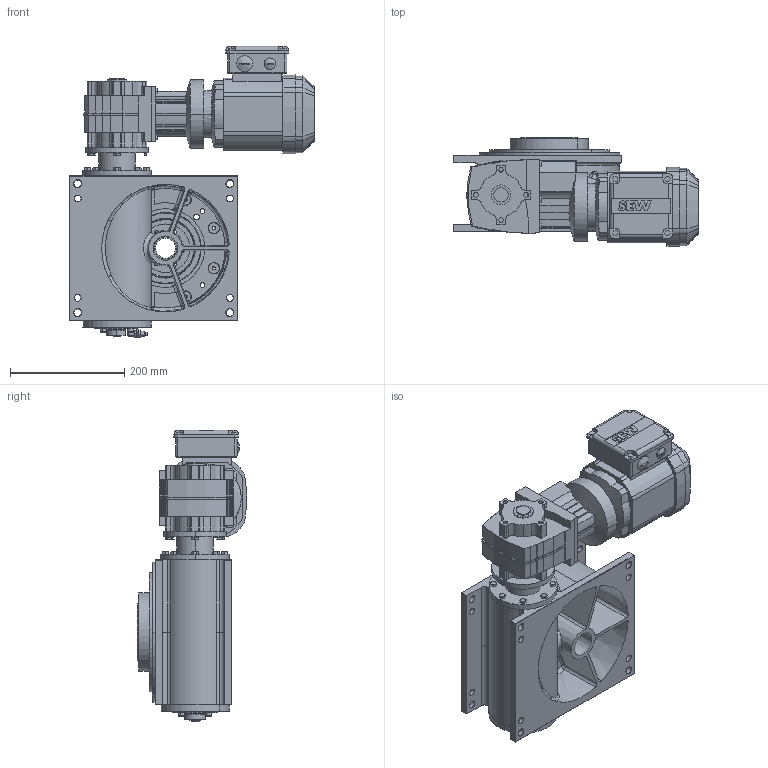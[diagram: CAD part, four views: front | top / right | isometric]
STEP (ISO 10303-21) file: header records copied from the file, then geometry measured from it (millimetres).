
FILE_DESCRIPTION (( 'STEP AP214' ), '1' );
FILE_NAME ('M210_SEW_WA37DRS71S4_D1_08.STEP', '2020-06-17T04:14:39', ( '' ), ( '' ), 'SwSTEP 2.0', 'SolidWorks 2020', '' );
FILE_SCHEMA (( 'AUTOMOTIVE_DESIGN' ));
Length unit declared in the file: millimetre
Products named in the file (1): M210_SEW_WA37DRS71S4_D1_08
Bounding box: 429 x 191.14 x 511 mm (x, y, z)
Surface area: 819921 mm2 (no closed solid volume)
Topology: 0 solids, 89 shells, 1396 faces, 4234 edges, 2848 vertices
Faces by surface type: plane 636, cylinder 402, cone 193, bspline 113, torus 52
Entity records: 70890 total; most frequent: CARTESIAN_POINT 18253, DIRECTION 7771, ORIENTED_EDGE 7161, EDGE_CURVE 4208, VERTEX_POINT 2848, AXIS2_PLACEMENT_3D 2814, VECTOR 2143, LINE 2143
